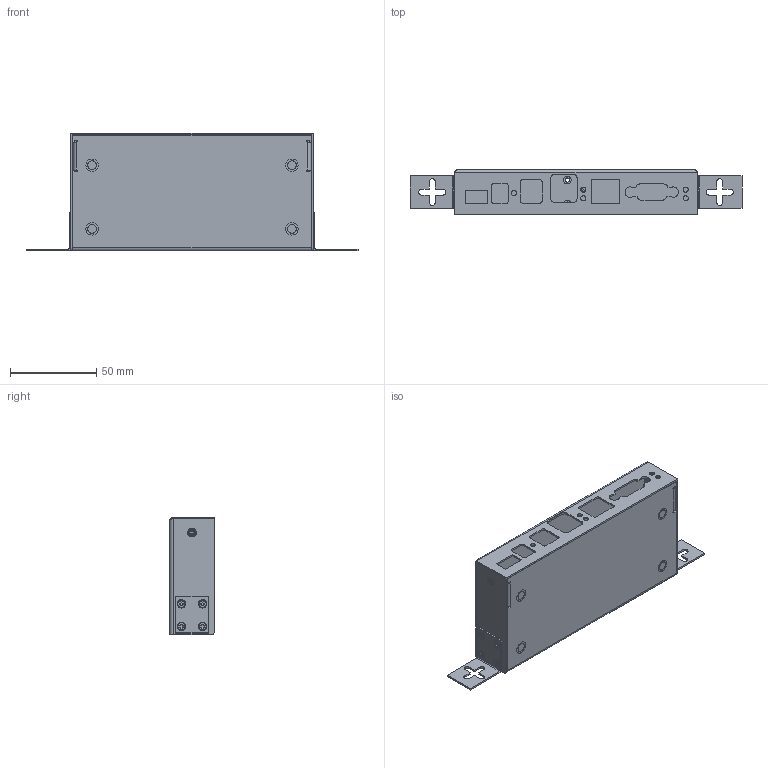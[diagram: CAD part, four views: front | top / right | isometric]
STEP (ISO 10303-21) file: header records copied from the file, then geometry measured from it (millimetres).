
FILE_DESCRIPTION(/* description */ (''),/* implementation_level */ '2;1');
FILE_NAME(/* name */ 'GM-HU32ES_CAD.step',/* time_stamp */ '2024-10-17T15:51:53-04:00',/* author */ (''),/* organization */ (''),/* preprocessor_version */ 'ST-DEVELOPER v20',/* originating_system */ 'Autodesk Translation Framework v13.20.0.188',/* authorisation */ '');
FILE_SCHEMA (('AUTOMOTIVE_DESIGN { 1 0 10303 214 3 1 1 }'));
Length unit declared in the file: millimetre
Products named in the file (8): HUB-CL211_ASM; TOP; BOT_ASM; BOT; 36; HUBU24-38-F-B; FM-3X3_8CCRO; FM3X3_8CCRO-A
Assembly tree (21 placements, depth 3):
  HUB-CL211_ASM
    TOP
    BOT_ASM
      BOT
      36  x4
    HUBU24-38-F-B  x2
    FM-3X3_8CCRO  x8
    FM3X3_8CCRO-A  x4
Bounding box: 192.8 x 26 x 68.5 mm (x, y, z)
Volume: 30931.4 mm3; surface area: 64860.2 mm2
Topology: 24 solids, 24 shells, 956 faces, 2514 edges, 1618 vertices
Faces by surface type: plane 660, cylinder 143, bspline 114, cone 32, torus 7
Full cylindrical faces by diameter (mm): 2.5 x19, 2.6 x16, 3 x5, 4.2 x8, 4.5 x7, 5 x8
Entity records: 18046 total; most frequent: CARTESIAN_POINT 7289, ORIENTED_EDGE 2110, DIRECTION 2083, EDGE_CURVE 1055, LINE 741, VECTOR 741, AXIS2_PLACEMENT_3D 671, VERTEX_POINT 664
